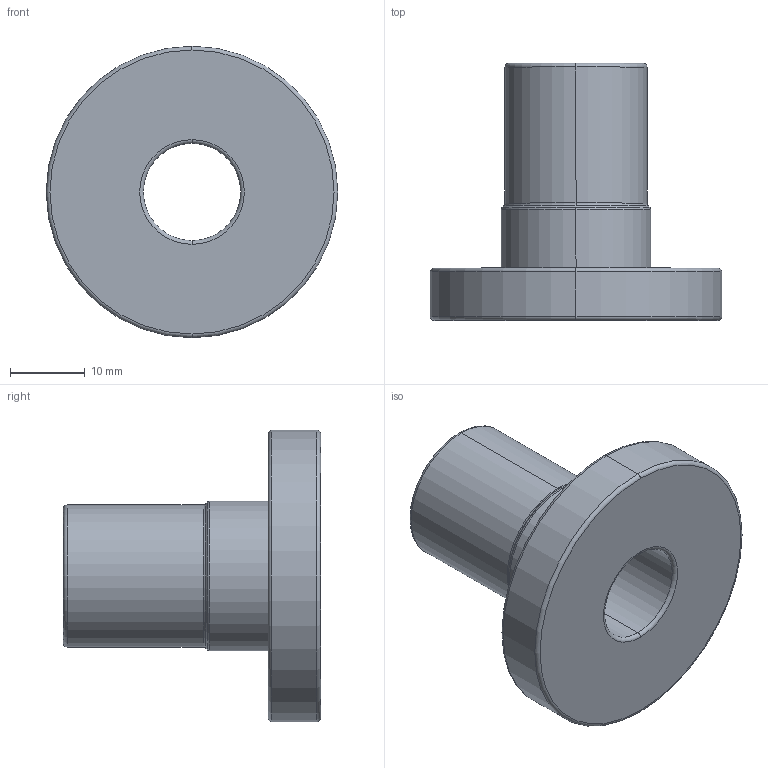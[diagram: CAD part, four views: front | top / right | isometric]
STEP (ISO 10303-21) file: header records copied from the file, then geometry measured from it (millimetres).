
FILE_DESCRIPTION(('CATIA V5 STEP Exchange','CAx-IF Rec.Pracs.--- Composite Materials ---3.4---2017-06-13'),'2;1');
FILE_NAME('C:\Users\PM610867\AppData\Local\ST-WORK_R32_PROD\Liasse-PDF\IEM_PEPSI_CEG_DEF_K_1229_233-BAGUE_EPAULEE_D17_DOME-A.stp','2025-02-14T10:16:06+00:00',('none'),('none'),'CATIA Version 5-6 Release 2022 SP2','CATIA V5 STEP AP203 v2','none');
FILE_SCHEMA(('CONFIG_CONTROL_DESIGN'));
Length unit declared in the file: millimetre
Products named in the file (1): IEM PEPSI CEG DEF K 1229 233
Bounding box: 39 x 34.4 x 39 mm (x, y, z)
Volume: 11477.5 mm3; surface area: 6057.3 mm2
Topology: 1 solids, 1 shells, 34 faces, 68 edges, 38 vertices
Faces by surface type: torus 20, cylinder 8, plane 4, cone 2
Entity records: 806 total; most frequent: ORIENTED_EDGE 136, CARTESIAN_POINT 126, DIRECTION 106, AXIS2_PLACEMENT_3D 78, EDGE_CURVE 68, CIRCLE 58, EDGE_LOOP 38, VERTEX_POINT 38
